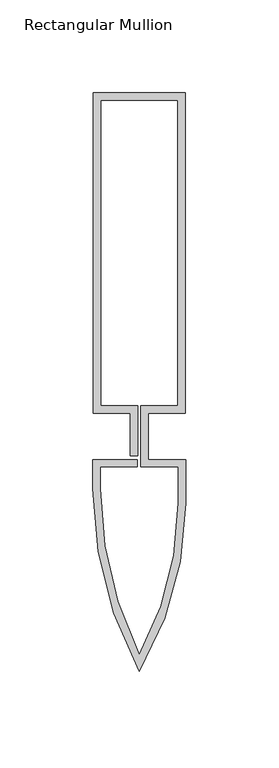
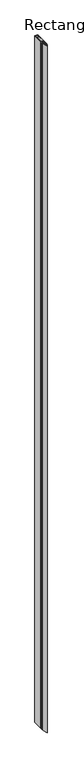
"""IFC4 building model written with IfcOpenShell, lengths in millimetres: member geometry, Rectangular Mullion : Reynaers_CW-50_Mullion-Transom_Horizontal_172.4mm_Facecap-05."""

import ifcopenshell
import ifcopenshell.guid

model = None  # the IFC model being written
_history = None  # IfcOwnerHistory: only IFC2X3 demands one
_inside = {}  # id of a spatial element -> (the spatial element, [elements in it])
_under = {}  # id of a project, library or spatial element -> (it, [spatial elements below it])
_declared = {}  # id of a project -> (the project, [libraries it declares])
_typed = {}  # id of a type object -> (the type object, [elements of that type])
_made_of = {}  # id of a material, layer set ... -> (it, [elements and type objects made of it])


def new_model(schema):
    """Start an empty IFC model of exactly this schema.

    Asked for "IFC4X3", IfcOpenShell would pick the latest addendum, in which some entities
    have other attributes; the version numbers below select the first issue.
    IFC2X3 requires an IfcOwnerHistory on every rooted entity: one is made here for all.
    """
    global model, _history
    if schema == "IFC4X3":
        model = ifcopenshell.file(schema_version=(4, 3, 0, 0))
    else:
        model = ifcopenshell.file(schema=schema)
    _inside.clear()
    _under.clear()
    _declared.clear()
    _typed.clear()
    _made_of.clear()
    _history = None
    if model.schema == "IFC2X3":
        org = make("IfcOrganization", Name="unknown")
        user = make(
            "IfcPersonAndOrganization",
            ThePerson=make("IfcPerson", FamilyName="unknown"),
            TheOrganization=org,
        )
        app = make(
            "IfcApplication",
            ApplicationDeveloper=org,
            Version="unknown",
            ApplicationFullName="unknown",
            ApplicationIdentifier="unknown",
        )
        _history = make(
            "IfcOwnerHistory",
            OwningUser=user,
            OwningApplication=app,
            ChangeAction="ADDED",
            CreationDate=0,
        )
    return model


def make(cls, **values):
    """One entity of the class cls with the attributes given. An attribute that is None is left unset."""
    return model.create_entity(
        cls, **{name: value for name, value in values.items() if value is not None}
    )


def rooted(cls, **values):
    """An entity with a GlobalId (a new one), such as an element, a storey or a relation."""
    return make(cls, GlobalId=ifcopenshell.guid.new(), OwnerHistory=_history, **values)


def si_unit(unit_type, name, prefix=None):
    """IfcSIUnit, for example si_unit("LENGTHUNIT", "METRE", prefix="MILLI")."""
    return make("IfcSIUnit", UnitType=unit_type, Prefix=prefix, Name=name)


def assignment(units):
    """IfcUnitAssignment: the units of a project."""
    return None if units is None else make("IfcUnitAssignment", Units=units)


def point(xyz):
    """IfcCartesianPoint."""
    return None if xyz is None else make("IfcCartesianPoint", Coordinates=xyz)


def direction(xyz):
    """IfcDirection."""
    return None if xyz is None else make("IfcDirection", DirectionRatios=xyz)


def frame(location, z_axis=None, x_axis=None):
    """IfcAxis2Placement3D, a coordinate frame: its origin and axes. An axis left out is left unset."""
    return make(
        "IfcAxis2Placement3D",
        Location=point(location),
        Axis=direction(z_axis),
        RefDirection=direction(x_axis),
    )


def frame_2d(location, x_axis=None):
    """IfcAxis2Placement2D, a coordinate frame in the plane: its origin and x axis."""
    return make(
        "IfcAxis2Placement2D", Location=point(location), RefDirection=direction(x_axis)
    )


def origin():
    """The frame at (0, 0, 0) with its axes left unset."""
    return frame((0.0, 0.0, 0.0))


def place(relative_to, where):
    """IfcLocalPlacement: puts the frame where relative to a parent placement (None: the world)."""
    return make(
        "IfcLocalPlacement", PlacementRelTo=relative_to, RelativePlacement=where
    )


def context(
    kind, dimensions, precision=None, world=None, true_north=None, identifier=None
):
    """IfcGeometricRepresentationContext, for example the 3D "Model" context."""
    return make(
        "IfcGeometricRepresentationContext",
        ContextIdentifier=identifier,
        ContextType=kind,
        CoordinateSpaceDimension=dimensions,
        Precision=precision,
        WorldCoordinateSystem=world,
        TrueNorth=true_north,
    )


def project(units=None, contexts=None):
    """IfcProject with its units and contexts."""
    return rooted(
        "IfcProject",
        Name="project",
        RepresentationContexts=contexts,
        UnitsInContext=assignment(units),
    )


def spatial(cls, under=None, at=None, **own):
    """A site, building, storey or space (cls), placed at a placement, below another one or the project."""
    s = rooted(cls, ObjectPlacement=at, **own)
    if under is not None:
        _under.setdefault(under.id(), (under, []))[1].append(s)
    return s


def polyline(points):
    """IfcPolyline through the points."""
    return make("IfcPolyline", Points=[point(p) for p in points])


def circle_curve(where, radius):
    """IfcCircle in the frame where."""
    return make("IfcCircle", Position=where, Radius=radius)


def trimmed(basis, trim1, trim2, sense, master):
    """IfcTrimmedCurve: the piece of a basis curve between two trims."""
    return make(
        "IfcTrimmedCurve",
        BasisCurve=basis,
        Trim1=trim1,
        Trim2=trim2,
        SenseAgreement=sense,
        MasterRepresentation=master,
    )


def segment(curve, same_sense, transition):
    """IfcCompositeCurveSegment."""
    return make(
        "IfcCompositeCurveSegment",
        Transition=transition,
        SameSense=same_sense,
        ParentCurve=curve,
    )


def composite_curve(segments, self_intersect=None):
    """IfcCompositeCurve: segments joined end to end."""
    return make("IfcCompositeCurve", Segments=segments, SelfIntersect=self_intersect)


def outline(outer, holes=None, kind="AREA"):
    """IfcArbitraryClosedProfileDef: a profile drawn as a closed curve; with holes, ...WithVoids."""
    if holes is None:
        return make("IfcArbitraryClosedProfileDef", ProfileType=kind, OuterCurve=outer)
    return make(
        "IfcArbitraryProfileDefWithVoids",
        ProfileType=kind,
        OuterCurve=outer,
        InnerCurves=holes,
    )


def extrude(swept, where, along, depth):
    """IfcExtrudedAreaSolid: the profile swept, set in the frame where, extruded along a direction by depth."""
    return make(
        "IfcExtrudedAreaSolid",
        SweptArea=swept,
        Position=where,
        ExtrudedDirection=direction(along),
        Depth=depth,
    )


def shape(context_of_items, identifier, shape_type, items):
    """IfcShapeRepresentation: the items that make up one representation, for example the "Body"."""
    return make(
        "IfcShapeRepresentation",
        ContextOfItems=context_of_items,
        RepresentationIdentifier=identifier,
        RepresentationType=shape_type,
        Items=items,
    )


def source(mapping_origin, context_of_items, identifier, shape_type, items):
    """IfcRepresentationMap: a shape defined once, which mapped items show again and again."""
    return make(
        "IfcRepresentationMap",
        MappingOrigin=mapping_origin,
        MappedRepresentation=shape(context_of_items, identifier, shape_type, items),
    )


def transform(
    local_origin,
    x_axis=None,
    y_axis=None,
    z_axis=None,
    scale=None,
    scale2=None,
    scale3=None,
    uniform=True,
):
    """IfcCartesianTransformationOperator3D, or its non-uniform kind. x_axis, y_axis, z_axis: its Axis1, 2, 3."""
    if uniform:
        return make(
            "IfcCartesianTransformationOperator3D",
            Axis1=direction(x_axis),
            Axis2=direction(y_axis),
            LocalOrigin=point(local_origin),
            Scale=scale,
            Axis3=direction(z_axis),
        )
    return make(
        "IfcCartesianTransformationOperator3DnonUniform",
        Axis1=direction(x_axis),
        Axis2=direction(y_axis),
        LocalOrigin=point(local_origin),
        Scale=scale,
        Axis3=direction(z_axis),
        Scale2=scale2,
        Scale3=scale3,
    )


def mapped(mapping_source, mapping_target):
    """IfcMappedItem: shows the shape of a source again, moved by a transform."""
    return make(
        "IfcMappedItem", MappingSource=mapping_source, MappingTarget=mapping_target
    )


def made_of(thing, what):
    """Note that an element or type object is made of a material, layer set ...; save() writes the relation."""
    if what is not None:
        _made_of.setdefault(what.id(), (what, []))[1].append(thing)
    return thing


def element(
    cls,
    number,
    at=None,
    inside=None,
    cuts=None,
    type_object=None,
    material=None,
    context=None,
    identifier="Body",
    shape_type=None,
    held_by="IfcProductDefinitionShape",
    body=None,
    shapes=None,
    **own,
):
    """One element of the class cls, such as IfcWall. Its Tag is "e" and its number.

    at: its placement. inside: the storey or other place that contains it. cuts: it is an
    opening in that element (IfcRelVoidsElement). A single representation is given by context,
    identifier, shape_type and body (its items); several are given by shapes. held_by: the class
    of the entity that holds the representations. save() writes the other relations.
    """
    e = rooted(cls, Tag="e%d" % number, ObjectPlacement=at, **own)
    if body is not None:
        shapes = [shape(context, identifier, shape_type, body)]
    if shapes is not None:
        e.Representation = make(held_by, Representations=shapes)
    if inside is not None:
        _inside.setdefault(inside.id(), (inside, []))[1].append(e)
    if cuts is not None:
        rooted(
            "IfcRelVoidsElement", RelatingBuildingElement=cuts, RelatedOpeningElement=e
        )
    if type_object is not None:
        _typed.setdefault(type_object.id(), (type_object, []))[1].append(e)
    return made_of(e, material)


def aggregate(whole, parts):
    """IfcRelAggregates: a whole, such as a stair, and the parts it consists of."""
    return rooted("IfcRelAggregates", RelatingObject=whole, RelatedObjects=parts)


def save(model, path):
    """Write the relations noted so far, then the file.

    IfcRelAggregates (storeys below a building ...), IfcRelContainedInSpatialStructure (elements
    in a storey), IfcRelDefinesByType, IfcRelAssociatesMaterial and IfcRelDeclares: one each for
    every whole, place, type object, material and project.
    """
    for whole, parts in _under.values():
        aggregate(whole, parts)
    for where, things in _inside.values():
        rooted(
            "IfcRelContainedInSpatialStructure",
            RelatedElements=things,
            RelatingStructure=where,
        )
    for kind, things in _typed.values():
        rooted("IfcRelDefinesByType", RelatedObjects=things, RelatingType=kind)
    for what, things in _made_of.values():
        rooted("IfcRelAssociatesMaterial", RelatedObjects=things, RelatingMaterial=what)
    for by, libraries in _declared.values():
        rooted("IfcRelDeclares", RelatingContext=by, RelatedDefinitions=libraries)
    model.write(path)


def rectangular_mullion_6f243deb(model_context):
    return source(origin(), model_context, "Body", "SweptSolid", [
        extrude(outline(composite_curve([segment(polyline([(-24.8004059, 184.9), (24.8004059, 184.9), (24.8004059, 12.5), (4.9004059, 12.5), (4.9004059, -12.5), (24.994845, -12.5), (24.994845, -36.0195976)]), True, "CONTINUOUS"), segment(trimmed(circle_curve(frame_2d((-151.2704106, -36.0195976)), 176.2652556), [point((24.994845, -36.0195976))], [point((0.0, -126.5))], False, "CARTESIAN"), True, "CONTINUOUS"), segment(trimmed(circle_curve(frame_2d((181.1469577, -28.111878)), 206.1418028), [point((0.0, -126.5))], [point((-24.994845, -28.111878))], False, "CARTESIAN"), True, "CONTINUOUS"), segment(polyline([(-24.994845, -28.111878), (-24.994845, -12.5), (-1.0995941, -12.5), (-1.0995941, -16.5), (-20.994845, -16.5), (-20.994845, -28.2355063)]), True, "CONTINUOUS"), segment(trimmed(circle_curve(frame_2d((179.2670132, -28.2355063)), 200.2618582), [point((-20.994845, -28.2355063))], [point((0.0, -117.5))], True, "CARTESIAN"), True, "CONTINUOUS"), segment(trimmed(circle_curve(frame_2d((-147.4777527, -36.0547506)), 168.4725977), [point((0.0, -117.5))], [point((20.994845, -36.0547506))], True, "CARTESIAN"), True, "CONTINUOUS"), segment(polyline([(20.994845, -36.0547506), (20.994845, -16.5), (0.9004059, -16.5), (0.9004059, 16.5), (20.8004059, 16.5), (20.8004059, 180.9), (-20.8004059, 180.9), (-20.8004059, 16.5), (-0.9004059, 16.5), (-0.9004059, -10.5), (-4.9004059, -10.5), (-4.9004059, 12.5), (-24.8004059, 12.5), (-24.8004059, 184.9)]), True, "CONTINUOUS")], self_intersect=False)), frame((0.0, 0.0, -12000.0), z_axis=(0.0, 0.0, 1.0), x_axis=(1.0, 0.0, 0.0)), (0.0, 0.0, 1.0), 12000.0),
    ])


if __name__ == "__main__":
    model = new_model("IFC4")
    model_context = context("Model", 3, world=origin())
    ifc_project = project(units=[si_unit("LENGTHUNIT", "METRE", prefix="MILLI")], contexts=[model_context])
    site = spatial("IfcSite", under=ifc_project)
    building = spatial("IfcBuilding", under=site)
    placement = place(None, origin())
    rectangular_mullion_shape = rectangular_mullion_6f243deb(model_context)
    element("IfcMember", 1, ObjectType="Rectangular Mullion : Reynaers_CW-50_Mullion-Transom_Horizontal_172.4mm_Facecap-05", at=placement, inside=building, context=model_context, shape_type="MappedRepresentation", body=[
        mapped(rectangular_mullion_shape, transform((0.0, 0.0, 0.0), x_axis=(1.0, 0.0, 0.0), y_axis=(0.0, 1.0, 0.0), z_axis=(0.0, 0.0, 1.0))),
    ])
    save(model, "model.ifc")
